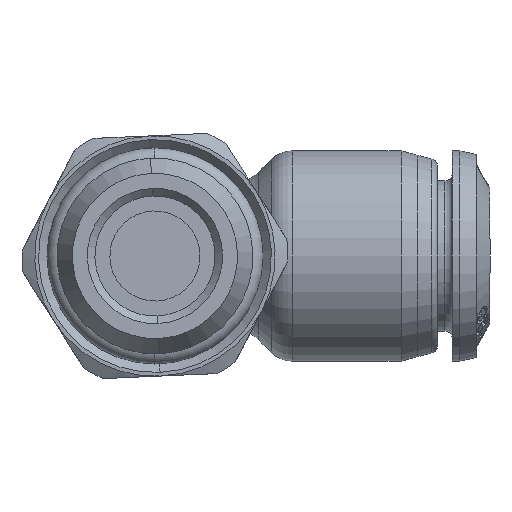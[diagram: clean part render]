
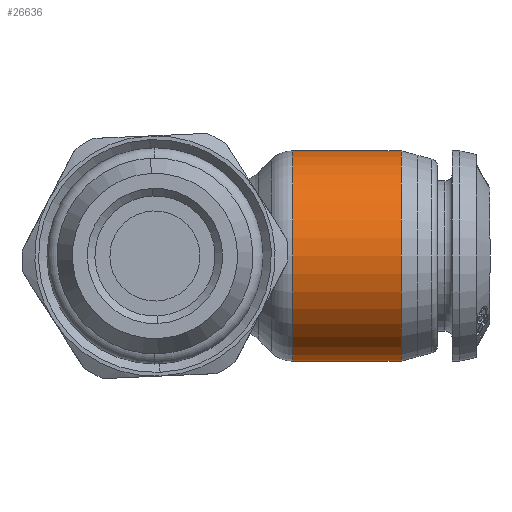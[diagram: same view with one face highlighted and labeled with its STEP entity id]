
A CAD part, left-side view. The second image highlights one B-rep face of the part: STEP entity #26636.
In plain terms, the highlighted cylindrical face has radius 7 mm (diameter 14 mm), a partial arc.
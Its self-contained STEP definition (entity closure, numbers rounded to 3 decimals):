
#920 = CARTESIAN_POINT ( 'NONE',  ( 0., -9.157, -7. ) ) ;
#924 = CARTESIAN_POINT ( 'NONE',  ( 0., -9.157, 7. ) ) ;
#928 = CARTESIAN_POINT ( 'NONE',  ( 0., -16.38, 7. ) ) ;
#929 = CARTESIAN_POINT ( 'NONE',  ( 0., -16.38, -7. ) ) ;
#2135 = CIRCLE ( 'NONE', #7298, 7. ) ;
#2140 = CIRCLE ( 'NONE', #7297, 7. ) ;
#4404 = VERTEX_POINT ( 'NONE', #920 ) ;
#4408 = VERTEX_POINT ( 'NONE', #924 ) ;
#4412 = VERTEX_POINT ( 'NONE', #928 ) ;
#4413 = VERTEX_POINT ( 'NONE', #929 ) ;
#7297 = AXIS2_PLACEMENT_3D ( 'NONE', #17652, #17653, #17654 ) ;
#7298 = AXIS2_PLACEMENT_3D ( 'NONE', #17655, #17656, #17657 ) ;
#7732 = EDGE_LOOP ( 'NONE', ( #16024, #16025, #16026, #16027 ) ) ;
#8205 = EDGE_CURVE ( 'NONE', #4413, #4412, #2140, .T. ) ;
#8206 = EDGE_CURVE ( 'NONE', #4404, #4408, #2135, .T. ) ;
#16024 = ORIENTED_EDGE ( 'NONE', *, *, #31024, .F. ) ;
#16025 = ORIENTED_EDGE ( 'NONE', *, *, #8205, .T. ) ;
#16026 = ORIENTED_EDGE ( 'NONE', *, *, #31025, .T. ) ;
#16027 = ORIENTED_EDGE ( 'NONE', *, *, #8206, .F. ) ;
#17652 = CARTESIAN_POINT ( 'NONE',  ( 0., -16.38, 0. ) ) ;
#17653 = DIRECTION ( 'NONE',  ( 0., 1., 0. ) ) ;
#17654 = DIRECTION ( 'NONE',  ( 0., 0., 1. ) ) ;
#17655 = CARTESIAN_POINT ( 'NONE',  ( 0., -9.157, 0. ) ) ;
#17656 = DIRECTION ( 'NONE',  ( 0., 1., 0. ) ) ;
#17657 = DIRECTION ( 'NONE',  ( 0., 0., 1. ) ) ;
#21950 = DIRECTION ( 'NONE',  ( 0., 1., 0. ) ) ;
#21954 = CARTESIAN_POINT ( 'NONE',  ( 0., 0., -7. ) ) ;
#21958 = CARTESIAN_POINT ( 'NONE',  ( 0., 0., 7. ) ) ;
#21959 = DIRECTION ( 'NONE',  ( 0., 1., 0. ) ) ;
#22397 = FACE_OUTER_BOUND ( 'NONE', #7732, .T. ) ;
#22405 = CYLINDRICAL_SURFACE ( 'NONE', #29955, 7. ) ;
#23139 = LINE ( 'NONE', #21954, #23144 ) ;
#23143 = LINE ( 'NONE', #21958, #23146 ) ;
#23144 = VECTOR ( 'NONE', #21950, 1000. ) ;
#23146 = VECTOR ( 'NONE', #21959, 1000. ) ;
#26636 = ADVANCED_FACE ( 'NONE', ( #22397 ), #22405, .T. ) ;
#29527 = CARTESIAN_POINT ( 'NONE',  ( 0., 0., 0. ) ) ;
#29528 = DIRECTION ( 'NONE',  ( 0., 1., 0. ) ) ;
#29536 = DIRECTION ( 'NONE',  ( 0., 0., 1. ) ) ;
#29955 = AXIS2_PLACEMENT_3D ( 'NONE', #29527, #29528, #29536 ) ;
#31024 = EDGE_CURVE ( 'NONE', #4413, #4404, #23139, .T. ) ;
#31025 = EDGE_CURVE ( 'NONE', #4412, #4408, #23143, .T. ) ;
